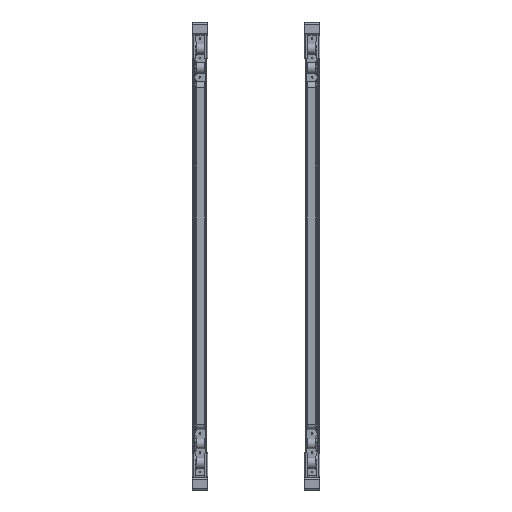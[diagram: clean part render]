
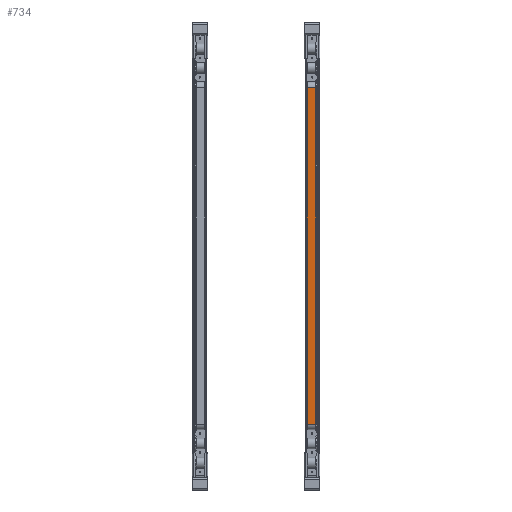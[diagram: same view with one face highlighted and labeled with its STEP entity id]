
A CAD part, top view. The second image highlights one B-rep face of the part: STEP entity #734.
In plain terms, the highlighted planar face has unit normal (0, -0.06, 0.998) as drawn and (0, 0, 1) by its records, which use the part's own axes.
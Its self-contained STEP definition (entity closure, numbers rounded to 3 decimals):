
#734=ADVANCED_FACE('',(#1489),#1490,.T.);
#1489=FACE_OUTER_BOUND('',#2460,.T.);
#1490=PLANE('',#2461);
#2460=EDGE_LOOP('',(#3747,#3748,#3749,#3750));
#2461=AXIS2_PLACEMENT_3D('',#3751,#3752,#3753);
#3747=ORIENTED_EDGE('',*,*,#5805,.T.);
#3748=ORIENTED_EDGE('',*,*,#5578,.T.);
#3749=ORIENTED_EDGE('',*,*,#5471,.F.);
#3750=ORIENTED_EDGE('',*,*,#5573,.F.);
#3751=CARTESIAN_POINT('',(564.0,-1.5,35.5));
#3752=DIRECTION('',(0.0,0.,1.0));
#3753=DIRECTION('',(0.0,1.0,0.));
#5471=EDGE_CURVE('',#6405,#6400,#6407,.T.);
#5573=EDGE_CURVE('',#6600,#6405,#6602,.T.);
#5578=EDGE_CURVE('',#6605,#6400,#6609,.T.);
#5805=EDGE_CURVE('',#6600,#6605,#6975,.T.);
#6400=VERTEX_POINT('',#7793);
#6405=VERTEX_POINT('',#7799);
#6407=LINE('',#7801,#7802);
#6600=VERTEX_POINT('',#8046);
#6602=LINE('',#8048,#8049);
#6605=VERTEX_POINT('',#8053);
#6609=LINE('',#8058,#8059);
#6975=LINE('',#8462,#8463);
#7793=CARTESIAN_POINT('',(132.0,-12.0,35.5));
#7799=CARTESIAN_POINT('',(996.0,-12.0,35.5));
#7801=CARTESIAN_POINT('',(564.0,-12.0,35.5));
#7802=VECTOR('',#9677,1.0);
#8046=CARTESIAN_POINT('',(996.0,9.0,35.5));
#8048=CARTESIAN_POINT('',(996.0,12.0,35.5));
#8049=VECTOR('',#9861,1.0);
#8053=CARTESIAN_POINT('',(132.0,9.0,35.5));
#8058=CARTESIAN_POINT('',(132.0,12.0,35.5));
#8059=VECTOR('',#9867,1.0);
#8462=CARTESIAN_POINT('',(564.0,9.0,35.5));
#8463=VECTOR('',#10244,1.0);
#9677=DIRECTION('',(-1.0,0.0,0.0));
#9861=DIRECTION('',(0.0,-1.0,0.0));
#9867=DIRECTION('',(0.0,-1.0,0.0));
#10244=DIRECTION('',(-1.0,0.0,0.0));
